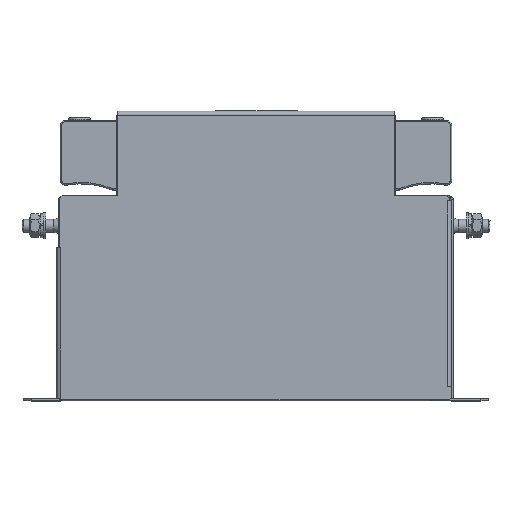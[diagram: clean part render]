
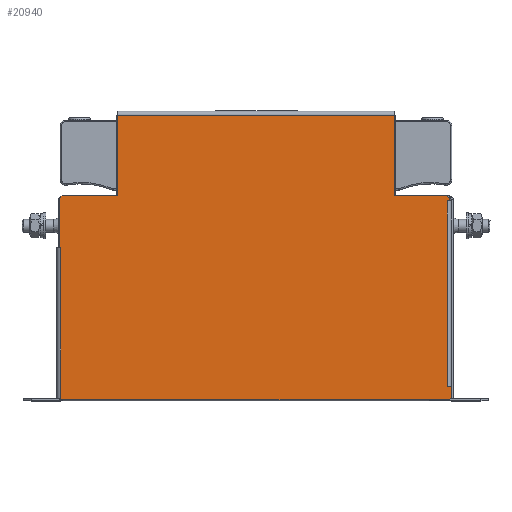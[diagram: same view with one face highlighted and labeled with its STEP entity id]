
A CAD part, top view. The second image highlights one B-rep face of the part: STEP entity #20940.
In plain terms, the highlighted planar face has unit normal (0, 0, 1).
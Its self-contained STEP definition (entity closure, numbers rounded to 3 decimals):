
#2533=FACE_OUTER_BOUND('',#3862,.T.);
#3862=EDGE_LOOP('',(#17646,#17647,#17648,#17649,#17650,#17651,#17652,#17653,
#17654,#17655,#17656,#17657,#17658,#17659,#17660,#17661,#17662,#17663,#17664,
#17665,#17666,#17667,#17668,#17669,#17670,#17671,#17672));
#5681=LINE('',#34332,#7658);
#5686=LINE('',#34340,#7663);
#5688=LINE('',#34344,#7665);
#5691=LINE('',#34350,#7668);
#5693=LINE('',#34354,#7670);
#5702=LINE('',#34378,#7679);
#5703=LINE('',#34382,#7680);
#5709=LINE('',#34393,#7686);
#5710=LINE('',#34396,#7687);
#5713=LINE('',#34403,#7690);
#5717=LINE('',#34411,#7694);
#5721=LINE('',#34418,#7698);
#5735=LINE('',#34455,#7712);
#5738=LINE('',#34467,#7715);
#5739=LINE('',#34471,#7716);
#5745=LINE('',#34482,#7722);
#5746=LINE('',#34484,#7723);
#5748=LINE('',#34489,#7725);
#5752=LINE('',#34497,#7729);
#5756=LINE('',#34505,#7733);
#5763=LINE('',#34523,#7740);
#5766=LINE('',#34528,#7743);
#5767=LINE('',#34530,#7744);
#5783=LINE('',#34559,#7760);
#5785=LINE('',#34562,#7762);
#5794=LINE('',#34582,#7771);
#5796=LINE('',#34585,#7773);
#7658=VECTOR('',#28148,10.);
#7663=VECTOR('',#28155,10.);
#7665=VECTOR('',#28159,10.);
#7668=VECTOR('',#28164,10.);
#7670=VECTOR('',#28168,10.);
#7679=VECTOR('',#28195,10.);
#7680=VECTOR('',#28198,10.);
#7686=VECTOR('',#28206,10.);
#7687=VECTOR('',#28209,10.);
#7690=VECTOR('',#28214,10.);
#7694=VECTOR('',#28220,10.);
#7698=VECTOR('',#28226,10.);
#7712=VECTOR('',#28264,10.);
#7715=VECTOR('',#28277,10.);
#7716=VECTOR('',#28280,10.);
#7722=VECTOR('',#28288,10.);
#7723=VECTOR('',#28291,10.);
#7725=VECTOR('',#28295,10.);
#7729=VECTOR('',#28301,10.);
#7733=VECTOR('',#28307,10.);
#7740=VECTOR('',#28332,10.);
#7743=VECTOR('',#28337,10.);
#7744=VECTOR('',#28340,10.);
#7760=VECTOR('',#28370,10.);
#7762=VECTOR('',#28374,10.);
#7771=VECTOR('',#28395,10.);
#7773=VECTOR('',#28399,10.);
#9493=VERTEX_POINT('',#34329);
#9494=VERTEX_POINT('',#34331);
#9495=VERTEX_POINT('',#34336);
#9496=VERTEX_POINT('',#34338);
#9497=VERTEX_POINT('',#34342);
#9498=VERTEX_POINT('',#34346);
#9499=VERTEX_POINT('',#34348);
#9500=VERTEX_POINT('',#34352);
#9507=VERTEX_POINT('',#34380);
#9508=VERTEX_POINT('',#34381);
#9512=VERTEX_POINT('',#34390);
#9513=VERTEX_POINT('',#34395);
#9515=VERTEX_POINT('',#34401);
#9516=VERTEX_POINT('',#34402);
#9519=VERTEX_POINT('',#34410);
#9521=VERTEX_POINT('',#34416);
#9535=VERTEX_POINT('',#34463);
#9537=VERTEX_POINT('',#34469);
#9538=VERTEX_POINT('',#34470);
#9542=VERTEX_POINT('',#34479);
#9543=VERTEX_POINT('',#34487);
#9544=VERTEX_POINT('',#34488);
#9547=VERTEX_POINT('',#34496);
#9550=VERTEX_POINT('',#34503);
#9553=VERTEX_POINT('',#34525);
#9559=VERTEX_POINT('',#34557);
#9563=VERTEX_POINT('',#34579);
#12172=EDGE_CURVE('',#9493,#9494,#5681,.T.);
#12177=EDGE_CURVE('',#9495,#9496,#5686,.T.);
#12179=EDGE_CURVE('',#9496,#9497,#5688,.T.);
#12182=EDGE_CURVE('',#9498,#9499,#5691,.T.);
#12184=EDGE_CURVE('',#9499,#9500,#5693,.T.);
#12197=EDGE_CURVE('',#9500,#9495,#5702,.T.);
#12198=EDGE_CURVE('',#9507,#9508,#5703,.T.);
#12204=EDGE_CURVE('',#9512,#9507,#5709,.T.);
#12205=EDGE_CURVE('',#9508,#9513,#5710,.T.);
#12208=EDGE_CURVE('',#9515,#9516,#5713,.T.);
#12212=EDGE_CURVE('',#9519,#9515,#5717,.T.);
#12216=EDGE_CURVE('',#9516,#9521,#5721,.T.);
#12236=EDGE_CURVE('',#9521,#9512,#5735,.T.);
#12241=EDGE_CURVE('',#9494,#9535,#5738,.T.);
#12242=EDGE_CURVE('',#9537,#9538,#5739,.T.);
#12248=EDGE_CURVE('',#9542,#9537,#5745,.T.);
#12249=EDGE_CURVE('',#9538,#9535,#5746,.T.);
#12251=EDGE_CURVE('',#9543,#9544,#5748,.T.);
#12255=EDGE_CURVE('',#9547,#9543,#5752,.T.);
#12259=EDGE_CURVE('',#9544,#9550,#5756,.T.);
#12270=EDGE_CURVE('',#9550,#9542,#5763,.T.);
#12273=EDGE_CURVE('',#9547,#9553,#5766,.T.);
#12274=EDGE_CURVE('',#9553,#9497,#5767,.T.);
#12290=EDGE_CURVE('',#9519,#9559,#5783,.T.);
#12292=EDGE_CURVE('',#9559,#9493,#5785,.T.);
#12301=EDGE_CURVE('',#9563,#9513,#5794,.T.);
#12303=EDGE_CURVE('',#9498,#9563,#5796,.T.);
#17646=ORIENTED_EDGE('',*,*,#12303,.F.);
#17647=ORIENTED_EDGE('',*,*,#12182,.T.);
#17648=ORIENTED_EDGE('',*,*,#12184,.T.);
#17649=ORIENTED_EDGE('',*,*,#12197,.T.);
#17650=ORIENTED_EDGE('',*,*,#12177,.T.);
#17651=ORIENTED_EDGE('',*,*,#12179,.T.);
#17652=ORIENTED_EDGE('',*,*,#12274,.F.);
#17653=ORIENTED_EDGE('',*,*,#12273,.F.);
#17654=ORIENTED_EDGE('',*,*,#12255,.T.);
#17655=ORIENTED_EDGE('',*,*,#12251,.T.);
#17656=ORIENTED_EDGE('',*,*,#12259,.T.);
#17657=ORIENTED_EDGE('',*,*,#12270,.T.);
#17658=ORIENTED_EDGE('',*,*,#12248,.T.);
#17659=ORIENTED_EDGE('',*,*,#12242,.T.);
#17660=ORIENTED_EDGE('',*,*,#12249,.T.);
#17661=ORIENTED_EDGE('',*,*,#12241,.F.);
#17662=ORIENTED_EDGE('',*,*,#12172,.F.);
#17663=ORIENTED_EDGE('',*,*,#12292,.F.);
#17664=ORIENTED_EDGE('',*,*,#12290,.F.);
#17665=ORIENTED_EDGE('',*,*,#12212,.T.);
#17666=ORIENTED_EDGE('',*,*,#12208,.T.);
#17667=ORIENTED_EDGE('',*,*,#12216,.T.);
#17668=ORIENTED_EDGE('',*,*,#12236,.T.);
#17669=ORIENTED_EDGE('',*,*,#12204,.T.);
#17670=ORIENTED_EDGE('',*,*,#12198,.T.);
#17671=ORIENTED_EDGE('',*,*,#12205,.T.);
#17672=ORIENTED_EDGE('',*,*,#12301,.F.);
#18642=PLANE('',#22816);
#20940=ADVANCED_FACE('',(#2533),#18642,.T.);
#22816=AXIS2_PLACEMENT_3D('',#34587,#28401,#28402);
#28148=DIRECTION('',(-1.,0.,0.));
#28155=DIRECTION('',(0.,-1.,0.));
#28159=DIRECTION('',(-1.,0.,0.));
#28164=DIRECTION('',(-1.,0.,0.));
#28168=DIRECTION('',(0.,1.,0.));
#28195=DIRECTION('',(-1.,0.,0.));
#28198=DIRECTION('',(0.,1.,0.));
#28206=DIRECTION('',(-1.,0.,0.));
#28209=DIRECTION('',(1.,0.,0.));
#28214=DIRECTION('',(0.,1.,0.));
#28220=DIRECTION('',(-1.,0.,0.));
#28226=DIRECTION('',(1.,0.,0.));
#28264=DIRECTION('',(0.,1.,0.));
#28277=DIRECTION('',(0.,1.,0.));
#28280=DIRECTION('',(0.,-1.,0.));
#28288=DIRECTION('',(1.,0.,0.));
#28291=DIRECTION('',(-1.,0.,0.));
#28295=DIRECTION('',(0.,-1.,0.));
#28301=DIRECTION('',(1.,0.,0.));
#28307=DIRECTION('',(-1.,0.,0.));
#28332=DIRECTION('',(0.,-1.,0.));
#28337=DIRECTION('',(0.,1.,0.));
#28340=DIRECTION('',(0.707,0.707,0.));
#28370=DIRECTION('',(0.,-1.,0.));
#28374=DIRECTION('',(-0.707,-0.707,0.));
#28395=DIRECTION('',(0.,-1.,0.));
#28399=DIRECTION('',(0.707,-0.707,0.));
#28401=DIRECTION('center_axis',(0.,0.,
1.));
#28402=DIRECTION('ref_axis',(1.,0.,0.));
#34329=CARTESIAN_POINT('',(74.775,0.5,19.95));
#34331=CARTESIAN_POINT('',(-75.975,0.5,19.95));
#34332=CARTESIAN_POINT('',(-74.775,0.5,19.95));
#34336=CARTESIAN_POINT('',(-53.575,110.5,19.95));
#34338=CARTESIAN_POINT('',(-53.575,79.3,19.95));
#34340=CARTESIAN_POINT('',(-53.575,84.125,19.95));
#34342=CARTESIAN_POINT('',(-74.975,79.3,19.95));
#34344=CARTESIAN_POINT('',(-26.788,79.3,19.95));
#34346=CARTESIAN_POINT('',(73.775,79.3,19.95));
#34348=CARTESIAN_POINT('',(53.575,79.3,19.95));
#34350=CARTESIAN_POINT('',(37.388,79.3,19.95));
#34352=CARTESIAN_POINT('',(53.575,110.5,19.95));
#34354=CARTESIAN_POINT('',(53.575,67.775,19.95));
#34378=CARTESIAN_POINT('',(26.788,110.5,19.95));
#34380=CARTESIAN_POINT('',(73.965,77.3,19.95));
#34381=CARTESIAN_POINT('',(73.965,77.31,19.95));
#34382=CARTESIAN_POINT('',(73.965,66.775,19.95));
#34390=CARTESIAN_POINT('',(73.975,77.3,19.95));
#34393=CARTESIAN_POINT('',(37.388,77.3,19.95));
#34395=CARTESIAN_POINT('',(74.775,77.31,19.95));
#34396=CARTESIAN_POINT('',(36.983,77.31,19.95));
#34401=CARTESIAN_POINT('',(73.965,5.49,19.95));
#34402=CARTESIAN_POINT('',(73.965,5.5,19.95));
#34403=CARTESIAN_POINT('',(73.965,30.87,19.95));
#34410=CARTESIAN_POINT('',(75.775,5.49,19.95));
#34411=CARTESIAN_POINT('',(37.388,5.49,19.95));
#34416=CARTESIAN_POINT('',(73.975,5.5,19.95));
#34418=CARTESIAN_POINT('',(36.983,5.5,19.95));
#34455=CARTESIAN_POINT('',(73.975,30.875,19.95));
#34463=CARTESIAN_POINT('',(-75.975,0.99,19.95));
#34467=CARTESIAN_POINT('',(-75.975,28.375,19.95));
#34469=CARTESIAN_POINT('',(-75.465,1.,19.95));
#34470=CARTESIAN_POINT('',(-75.465,0.99,19.95));
#34471=CARTESIAN_POINT('',(-75.465,28.625,19.95));
#34479=CARTESIAN_POINT('',(-75.475,1.,19.95));
#34482=CARTESIAN_POINT('',(-38.138,1.,19.95));
#34484=CARTESIAN_POINT('',(-37.733,0.99,19.95));
#34487=CARTESIAN_POINT('',(-75.465,59.31,19.95));
#34488=CARTESIAN_POINT('',(-75.465,59.3,19.95));
#34489=CARTESIAN_POINT('',(-75.465,57.78,19.95));
#34496=CARTESIAN_POINT('',(-75.975,59.31,19.95));
#34497=CARTESIAN_POINT('',(-38.138,59.31,19.95));
#34503=CARTESIAN_POINT('',(-75.475,59.3,19.95));
#34505=CARTESIAN_POINT('',(-37.733,59.3,19.95));
#34523=CARTESIAN_POINT('',(-75.475,57.775,19.95));
#34525=CARTESIAN_POINT('',(-75.975,78.3,19.95));
#34528=CARTESIAN_POINT('',(-75.975,28.375,19.95));
#34530=CARTESIAN_POINT('',(-62.244,92.031,19.95));
#34557=CARTESIAN_POINT('',(75.775,1.5,19.95));
#34559=CARTESIAN_POINT('',(75.775,5.49,19.95));
#34562=CARTESIAN_POINT('',(70.269,-4.006,19.95));
#34579=CARTESIAN_POINT('',(74.775,78.3,19.95));
#34582=CARTESIAN_POINT('',(74.775,0.5,19.95));
#34585=CARTESIAN_POINT('',(61.344,91.731,19.95));
#34587=CARTESIAN_POINT('Origin',(0.,56.25,19.95));
